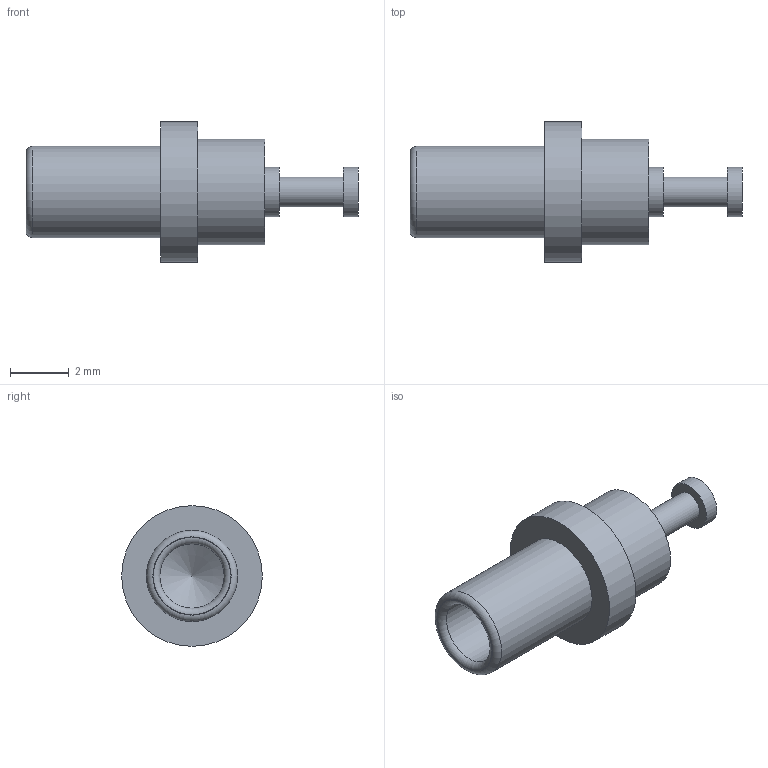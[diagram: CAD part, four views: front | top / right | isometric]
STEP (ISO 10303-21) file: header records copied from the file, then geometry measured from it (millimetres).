
FILE_DESCRIPTION(/* description */ (''),/* implementation_level */ '2;1');
FILE_NAME(/* name */ '\\Snap1\dwgs\Customer 3D Models\450\450-3324-02 Customer model.stp',/* time_stamp */ '2016-12-13T17:31:11+00:00',/* author */ ('paulk'),/* organization */ (''),/* preprocessor_version */ 'ST-DEVELOPER v15.2',/* originating_system */ 'Autodesk Inventor 2014',/* authorisation */ '');
FILE_SCHEMA (('CONFIG_CONTROL_DESIGN'));
Length unit declared in the file: millimetre
Products named in the file (1): 450-3324-02 Customer model
Bounding box: 11.28 x 4.78 x 4.78 mm (x, y, z)
Volume: 60.8 mm3; surface area: 181.9 mm2
Topology: 1 solids, 1 shells, 17 faces, 28 edges, 17 vertices
Faces by surface type: cylinder 7, plane 6, torus 2, cone 2
Full cylindrical faces by diameter (mm): 1.016 x1, 1.676 x2, 2.184 x1, 3.099 x1, 3.581 x1, 4.775 x1
Entity records: 355 total; most frequent: DIRECTION 68, CARTESIAN_POINT 50, AXIS2_PLACEMENT_3D 34, EDGE_LOOP 32, ORIENTED_EDGE 32, FACE_BOUND 17, ADVANCED_FACE 17, CIRCLE 16
